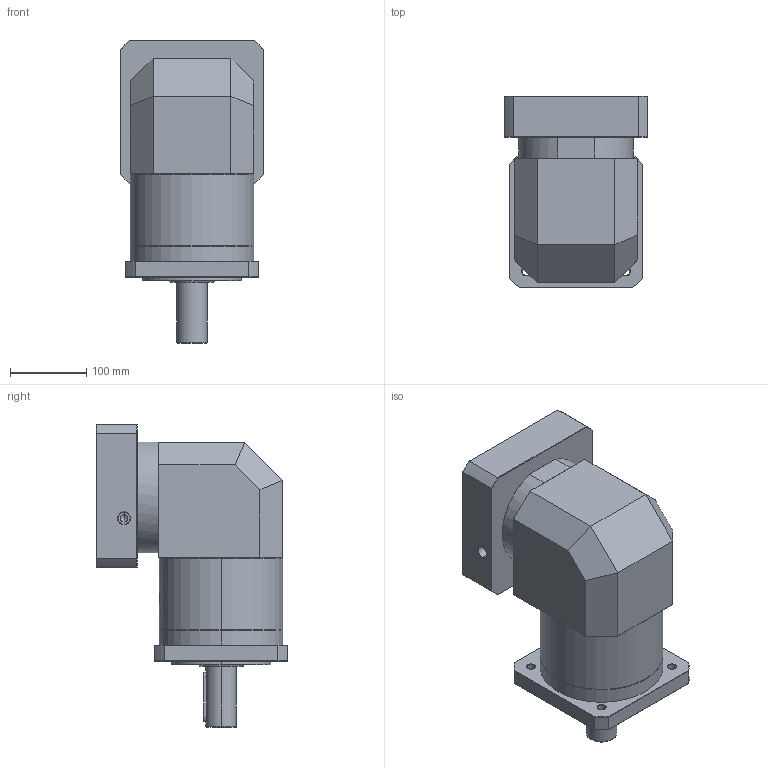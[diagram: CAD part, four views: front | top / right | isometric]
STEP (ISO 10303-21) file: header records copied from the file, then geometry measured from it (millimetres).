
FILE_DESCRIPTION (( 'STEP AP214' ), '1' );
FILE_NAME ('ZFR160A-D40-L2-P2-38-180-215-M12.step', '2023-09-03T08:58:47', ( '' ), ( '' ), 'SwSTEP 2.0', 'SolidWorks 2016', '' );
FILE_SCHEMA (( 'AUTOMOTIVE_DESIGN' ));
Length unit declared in the file: millimetre
Products named in the file (1): ZFR160A-D40-L2-P2-38-180-215-M12
Bounding box: 188 x 251.5 x 397.7 mm (x, y, z)
Volume: 8080400.9 mm3; surface area: 501014.7 mm2
Topology: 6 solids, 6 shells, 2189 faces, 5769 edges, 3688 vertices
Faces by surface type: plane 1046, bspline 410, cylinder 404, cone 307, torus 22
Entity records: 124524 total; most frequent: CARTESIAN_POINT 51679, ORIENTED_EDGE 11478, DIRECTION 8307, EDGE_CURVE 5739, VERTEX_POINT 3688, LINE 3081, VECTOR 3081, AXIS2_PLACEMENT_3D 2613
